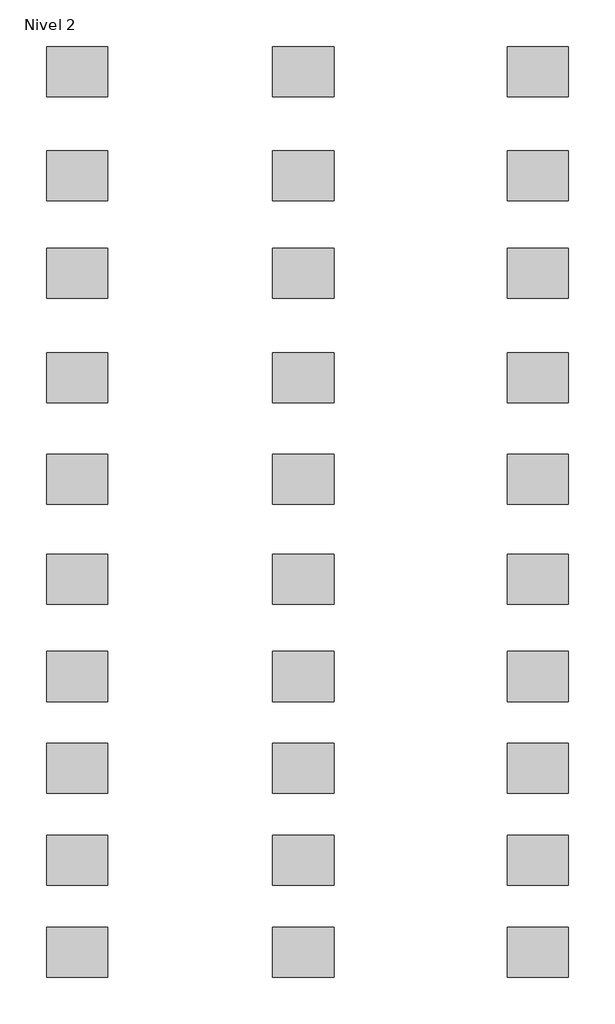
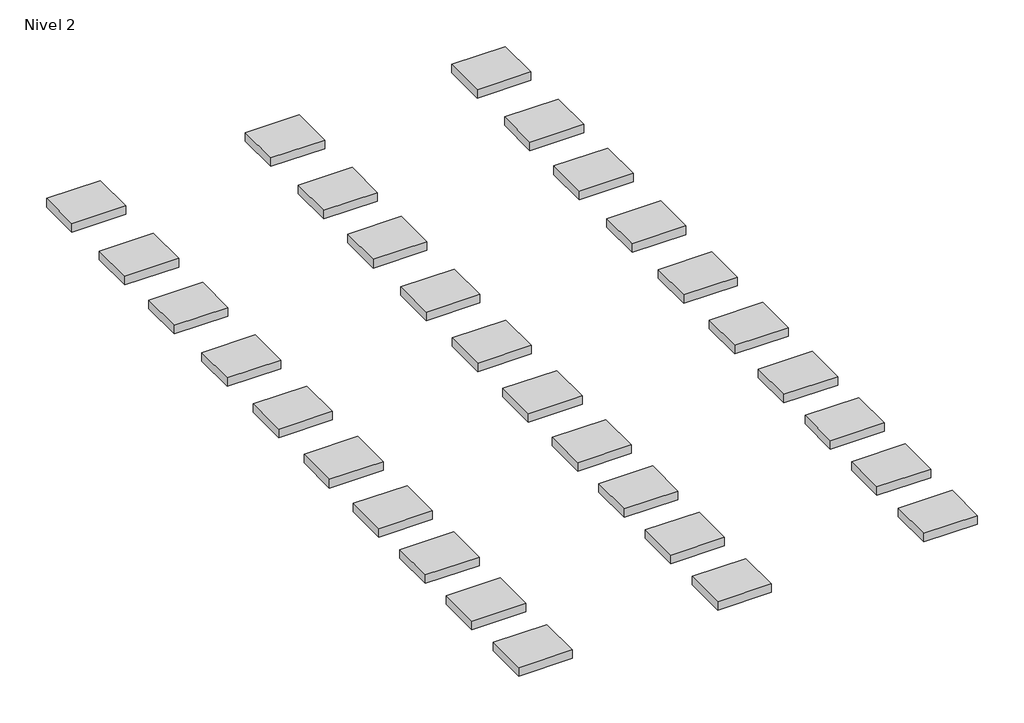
# One storey: 30 furniture elements.
"""IFC4 building model written with IfcOpenShell, lengths in millimetres."""

from ifc_helpers import new_model, si_unit, origin, place, context, project, spatial, transform, mapped, element, save
from components import furniture_fc90d0a3

model = new_model("IFC4")

# Units and contexts
model_context = context("Model", 3, world=origin())
ifc_project = project(units=[si_unit("LENGTHUNIT", "METRE", prefix="MILLI")], contexts=[model_context])

# Site, building, storey
site = spatial("IfcSite", under=ifc_project)
building = spatial("IfcBuilding", under=site)
storey = spatial("IfcBuildingStorey", under=building, Name="Nivel 2", Elevation=4000.0)

# Furniture
placement = place(None, origin())
furniture_shape = furniture_fc90d0a3(model_context)
element("IfcFurniture", 1, ObjectType="Madras : Madras 01", at=placement, inside=storey, context=model_context, shape_type="MappedRepresentation", body=[
    mapped(furniture_shape, transform((-9674.6867993, 10060.919512, 4000.0), x_axis=(1.0, 0.0, 0.0), y_axis=(0.0, 1.0, 0.0), z_axis=(0.0, 0.0, 1.0))),
])
element("IfcFurniture", 2, ObjectType="Madras : Madras 08", at=placement, inside=storey, context=model_context, shape_type="MappedRepresentation", body=[
    mapped(furniture_shape, transform((-9674.6867993, 7528.1002461, 4000.0), x_axis=(1.0, 0.0, 0.0), y_axis=(0.0, 1.0, 0.0), z_axis=(0.0, 0.0, 1.0))),
])
element("IfcFurniture", 3, ObjectType="Madras : Madras 11", at=placement, inside=storey, context=model_context, shape_type="MappedRepresentation", body=[
    mapped(furniture_shape, transform((-9674.6867993, 5160.919512, 4000.0), x_axis=(1.0, 0.0, 0.0), y_axis=(0.0, 1.0, 0.0), z_axis=(0.0, 0.0, 1.0))),
])
element("IfcFurniture", 4, ObjectType="Madras : Madras 13", at=placement, inside=storey, context=model_context, shape_type="MappedRepresentation", body=[
    mapped(furniture_shape, transform((-9674.6867993, 2628.1002461, 4000.0), x_axis=(1.0, 0.0, 0.0), y_axis=(0.0, 1.0, 0.0), z_axis=(0.0, 0.0, 1.0))),
])
element("IfcFurniture", 5, ObjectType="Madras : Madras 14", at=placement, inside=storey, context=model_context, shape_type="MappedRepresentation", body=[
    mapped(furniture_shape, transform((-9674.6867993, 162.8228274, 4000.0), x_axis=(1.0, 0.0, 0.0), y_axis=(0.0, 1.0, 0.0), z_axis=(0.0, 0.0, 1.0))),
])
element("IfcFurniture", 6, ObjectType="Madras : Madras 50", at=placement, inside=storey, context=model_context, shape_type="MappedRepresentation", body=[
    mapped(furniture_shape, transform((-9674.6867993, -2268.6836678, 4000.0), x_axis=(1.0, 0.0, 0.0), y_axis=(0.0, 1.0, 0.0), z_axis=(0.0, 0.0, 1.0))),
])
element("IfcFurniture", 7, ObjectType="Madras : Madras 53", at=placement, inside=storey, context=model_context, shape_type="MappedRepresentation", body=[
    mapped(furniture_shape, transform((-9674.6867993, -4632.6483159, 4000.0), x_axis=(1.0, 0.0, 0.0), y_axis=(0.0, 1.0, 0.0), z_axis=(0.0, 0.0, 1.0))),
])
element("IfcFurniture", 8, ObjectType="Madras : Madras 59", at=placement, inside=storey, context=model_context, shape_type="MappedRepresentation", body=[
    mapped(furniture_shape, transform((-9674.6867993, -6861.5292699, 4000.0), x_axis=(1.0, 0.0, 0.0), y_axis=(0.0, 1.0, 0.0), z_axis=(0.0, 0.0, 1.0))),
])
element("IfcFurniture", 9, ObjectType="Madras : Madras 61", at=placement, inside=storey, context=model_context, shape_type="MappedRepresentation", body=[
    mapped(furniture_shape, transform((-9674.6867993, -9090.4102238, 4000.0), x_axis=(1.0, 0.0, 0.0), y_axis=(0.0, 1.0, 0.0), z_axis=(0.0, 0.0, 1.0))),
])
element("IfcFurniture", 10, ObjectType="Madras : Madras 62", at=placement, inside=storey, context=model_context, shape_type="MappedRepresentation", body=[
    mapped(furniture_shape, transform((-9674.6867993, -11332.6483159, 4000.0), x_axis=(1.0, 0.0, 0.0), y_axis=(0.0, 1.0, 0.0), z_axis=(0.0, 0.0, 1.0))),
])
element("IfcFurniture", 11, ObjectType="Madras : Madras 68", at=placement, inside=storey, context=model_context, shape_type="MappedRepresentation", body=[
    mapped(furniture_shape, transform((-4174.6867993, 10060.919512, 4000.0), x_axis=(1.0, 0.0, 0.0), y_axis=(0.0, 1.0, 0.0), z_axis=(0.0, 0.0, 1.0))),
])
element("IfcFurniture", 12, ObjectType="Madras : Madras 80", at=placement, inside=storey, context=model_context, shape_type="MappedRepresentation", body=[
    mapped(furniture_shape, transform((-4174.6867993, 7528.1002461, 4000.0), x_axis=(1.0, 0.0, 0.0), y_axis=(0.0, 1.0, 0.0), z_axis=(0.0, 0.0, 1.0))),
])
element("IfcFurniture", 13, ObjectType="Madras : Madras 82", at=placement, inside=storey, context=model_context, shape_type="MappedRepresentation", body=[
    mapped(furniture_shape, transform((-4174.6867993, 5160.919512, 4000.0), x_axis=(1.0, 0.0, 0.0), y_axis=(0.0, 1.0, 0.0), z_axis=(0.0, 0.0, 1.0))),
])
element("IfcFurniture", 14, ObjectType="Madras : Madras 93", at=placement, inside=storey, context=model_context, shape_type="MappedRepresentation", body=[
    mapped(furniture_shape, transform((-4174.6867993, 2628.1002461, 4000.0), x_axis=(1.0, 0.0, 0.0), y_axis=(0.0, 1.0, 0.0), z_axis=(0.0, 0.0, 1.0))),
])
element("IfcFurniture", 15, ObjectType="Madras : Madras 94", at=placement, inside=storey, context=model_context, shape_type="MappedRepresentation", body=[
    mapped(furniture_shape, transform((-4174.6867993, 162.8228274, 4000.0), x_axis=(1.0, 0.0, 0.0), y_axis=(0.0, 1.0, 0.0), z_axis=(0.0, 0.0, 1.0))),
])
element("IfcFurniture", 16, ObjectType="Madras : Madras 105", at=placement, inside=storey, context=model_context, shape_type="MappedRepresentation", body=[
    mapped(furniture_shape, transform((-4174.6867993, -2268.6836678, 4000.0), x_axis=(1.0, 0.0, 0.0), y_axis=(0.0, 1.0, 0.0), z_axis=(0.0, 0.0, 1.0))),
])
element("IfcFurniture", 17, ObjectType="Madras : Madras 131", at=placement, inside=storey, context=model_context, shape_type="MappedRepresentation", body=[
    mapped(furniture_shape, transform((-4174.6867993, -4632.6483159, 4000.0), x_axis=(1.0, 0.0, 0.0), y_axis=(0.0, 1.0, 0.0), z_axis=(0.0, 0.0, 1.0))),
])
element("IfcFurniture", 18, ObjectType="Madras : Madras 156", at=placement, inside=storey, context=model_context, shape_type="MappedRepresentation", body=[
    mapped(furniture_shape, transform((-4174.6867993, -6861.5292699, 4000.0), x_axis=(1.0, 0.0, 0.0), y_axis=(0.0, 1.0, 0.0), z_axis=(0.0, 0.0, 1.0))),
])
element("IfcFurniture", 19, ObjectType="Madras : Madras 213", at=placement, inside=storey, context=model_context, shape_type="MappedRepresentation", body=[
    mapped(furniture_shape, transform((-4174.6867993, -9090.4102238, 4000.0), x_axis=(1.0, 0.0, 0.0), y_axis=(0.0, 1.0, 0.0), z_axis=(0.0, 0.0, 1.0))),
])
element("IfcFurniture", 20, ObjectType="Madras : Madras 245", at=placement, inside=storey, context=model_context, shape_type="MappedRepresentation", body=[
    mapped(furniture_shape, transform((-4174.6867993, -11332.6483159, 4000.0), x_axis=(1.0, 0.0, 0.0), y_axis=(0.0, 1.0, 0.0), z_axis=(0.0, 0.0, 1.0))),
])
element("IfcFurniture", 21, ObjectType="Madras : Madras 271", at=placement, inside=storey, context=model_context, shape_type="MappedRepresentation", body=[
    mapped(furniture_shape, transform((1525.3132007, 10060.919512, 4000.0), x_axis=(1.0, 0.0, 0.0), y_axis=(0.0, 1.0, 0.0), z_axis=(0.0, 0.0, 1.0))),
])
element("IfcFurniture", 22, ObjectType="Madras : Madras 300", at=placement, inside=storey, context=model_context, shape_type="MappedRepresentation", body=[
    mapped(furniture_shape, transform((1525.3132007, 7528.1002461, 4000.0), x_axis=(1.0, 0.0, 0.0), y_axis=(0.0, 1.0, 0.0), z_axis=(0.0, 0.0, 1.0))),
])
element("IfcFurniture", 23, ObjectType="Madras : Madras 336", at=placement, inside=storey, context=model_context, shape_type="MappedRepresentation", body=[
    mapped(furniture_shape, transform((1525.3132007, 5160.919512, 4000.0), x_axis=(1.0, 0.0, 0.0), y_axis=(0.0, 1.0, 0.0), z_axis=(0.0, 0.0, 1.0))),
])
element("IfcFurniture", 24, ObjectType="Madras : Madras 432", at=placement, inside=storey, context=model_context, shape_type="MappedRepresentation", body=[
    mapped(furniture_shape, transform((1525.3132007, 2628.1002461, 4000.0), x_axis=(1.0, 0.0, 0.0), y_axis=(0.0, 1.0, 0.0), z_axis=(0.0, 0.0, 1.0))),
])
element("IfcFurniture", 25, ObjectType="Madras : Madras 451", at=placement, inside=storey, context=model_context, shape_type="MappedRepresentation", body=[
    mapped(furniture_shape, transform((1525.3132007, 162.8228274, 4000.0), x_axis=(1.0, 0.0, 0.0), y_axis=(0.0, 1.0, 0.0), z_axis=(0.0, 0.0, 1.0))),
])
element("IfcFurniture", 26, ObjectType="Madras : Madras 458", at=placement, inside=storey, context=model_context, shape_type="MappedRepresentation", body=[
    mapped(furniture_shape, transform((1525.3132007, -2268.6836678, 4000.0), x_axis=(1.0, 0.0, 0.0), y_axis=(0.0, 1.0, 0.0), z_axis=(0.0, 0.0, 1.0))),
])
element("IfcFurniture", 27, ObjectType="Madras : Madras 503", at=placement, inside=storey, context=model_context, shape_type="MappedRepresentation", body=[
    mapped(furniture_shape, transform((1525.3132007, -4632.6483159, 4000.0), x_axis=(1.0, 0.0, 0.0), y_axis=(0.0, 1.0, 0.0), z_axis=(0.0, 0.0, 1.0))),
])
element("IfcFurniture", 28, ObjectType="Madras : Madras 514", at=placement, inside=storey, context=model_context, shape_type="MappedRepresentation", body=[
    mapped(furniture_shape, transform((1525.3132007, -6861.5292699, 4000.0), x_axis=(1.0, 0.0, 0.0), y_axis=(0.0, 1.0, 0.0), z_axis=(0.0, 0.0, 1.0))),
])
element("IfcFurniture", 29, ObjectType="Madras : Madras 515", at=placement, inside=storey, context=model_context, shape_type="MappedRepresentation", body=[
    mapped(furniture_shape, transform((1525.3132007, -9090.4102238, 4000.0), x_axis=(1.0, 0.0, 0.0), y_axis=(0.0, 1.0, 0.0), z_axis=(0.0, 0.0, 1.0))),
])
element("IfcFurniture", 30, ObjectType="Madras : Madras 667", at=placement, inside=storey, context=model_context, shape_type="MappedRepresentation", body=[
    mapped(furniture_shape, transform((1525.3132007, -11332.6483159, 4000.0), x_axis=(1.0, 0.0, 0.0), y_axis=(0.0, 1.0, 0.0), z_axis=(0.0, 0.0, 1.0))),
])

save(model, "model.ifc")
